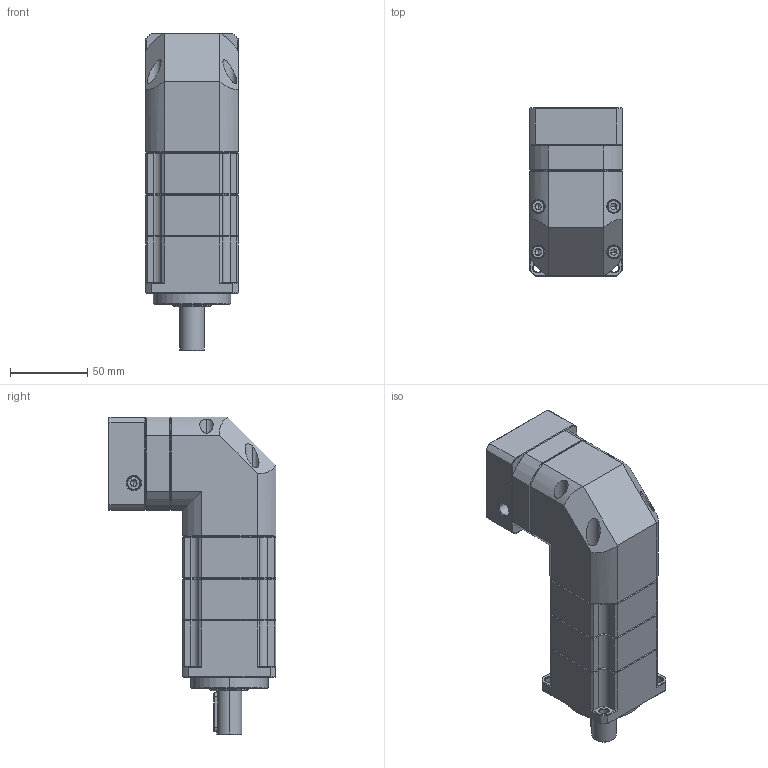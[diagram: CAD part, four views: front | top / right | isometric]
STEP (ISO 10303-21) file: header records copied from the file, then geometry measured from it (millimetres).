
FILE_DESCRIPTION (( 'STEP AP214' ), '1' );
FILE_NAME ('ZPBR060-D16-L3-P1-11-50-70-M4.STEP', '2024-05-03T14:57:15', ( 'Windows 蚚誧' ), ( 'Organization' ), 'SwSTEP 2.0', 'SolidWorks 2016', '' );
FILE_SCHEMA (( 'AUTOMOTIVE_DESIGN' ));
Length unit declared in the file: millimetre
Products named in the file (1): ZPBR060-D16-L3-P1-11-50-70-M4
Bounding box: 60 x 108.2 x 205 mm (x, y, z)
Volume: 665424 mm3; surface area: 77376.1 mm2
Topology: 1 solids, 33 shells, 2068 faces, 5392 edges, 3405 vertices
Faces by surface type: plane 1084, bspline 397, cone 308, cylinder 277, torus 2
Entity records: 88738 total; most frequent: CARTESIAN_POINT 34366, ORIENTED_EDGE 10740, DIRECTION 8495, EDGE_CURVE 5370, VECTOR 3511, LINE 3511, VERTEX_POINT 3405, AXIS2_PLACEMENT_3D 2492
